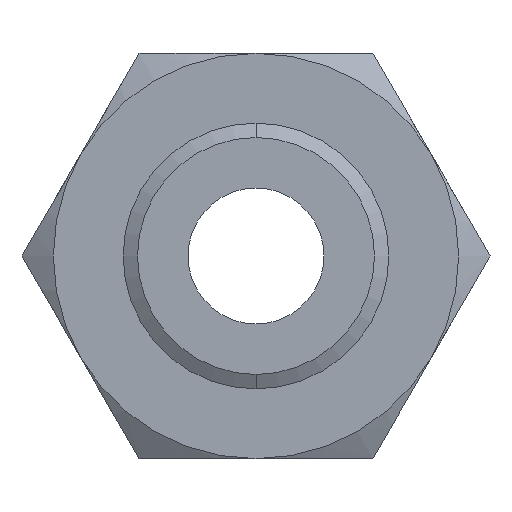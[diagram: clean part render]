
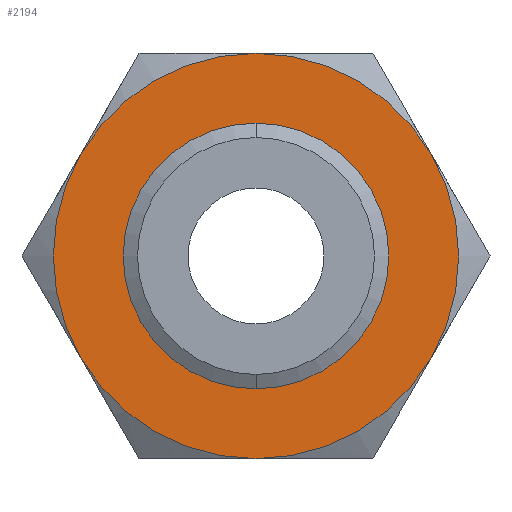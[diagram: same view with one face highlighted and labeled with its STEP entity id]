
A CAD part, front view. The second image highlights one B-rep face of the part: STEP entity #2194.
In plain terms, the highlighted planar face has unit normal (0, -1, 0).
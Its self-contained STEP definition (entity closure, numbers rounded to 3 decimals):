
#358 = AXIS2_PLACEMENT_3D ( 'NONE', #419, #418, #417 ) ;
#359 = CIRCLE ( 'NONE', #358, 77.5 ) ;
#365 = CARTESIAN_POINT ( 'NONE',  ( -67.117, 0., 38.75 ) ) ;
#366 = CARTESIAN_POINT ( 'NONE',  ( 67.117, 0., -38.75 ) ) ;
#373 = CARTESIAN_POINT ( 'NONE',  ( -67.117, 0., -38.75 ) ) ;
#402 = DIRECTION ( 'NONE',  ( 0., 0., 1. ) ) ;
#403 = DIRECTION ( 'NONE',  ( 0., 1., 0. ) ) ;
#404 = AXIS2_PLACEMENT_3D ( 'NONE', #411, #403, #402 ) ;
#405 = CIRCLE ( 'NONE', #404, 77.5 ) ;
#406 = DIRECTION ( 'NONE',  ( 0., 0., 1. ) ) ;
#407 = DIRECTION ( 'NONE',  ( 0., 1., 0. ) ) ;
#408 = CARTESIAN_POINT ( 'NONE',  ( 0., 0., 0. ) ) ;
#409 = AXIS2_PLACEMENT_3D ( 'NONE', #408, #407, #406 ) ;
#410 = CIRCLE ( 'NONE', #409, 77.5 ) ;
#411 = CARTESIAN_POINT ( 'NONE',  ( 0., 0., 0. ) ) ;
#412 = CARTESIAN_POINT ( 'NONE',  ( 0., 0., 77.5 ) ) ;
#416 = CARTESIAN_POINT ( 'NONE',  ( 67.117, 0., 38.75 ) ) ;
#417 = DIRECTION ( 'NONE',  ( 0., 0., 1. ) ) ;
#418 = DIRECTION ( 'NONE',  ( 0., 1., 0. ) ) ;
#419 = CARTESIAN_POINT ( 'NONE',  ( 0., 0., 0. ) ) ;
#427 = DIRECTION ( 'NONE',  ( 0., 0., 1. ) ) ;
#428 = DIRECTION ( 'NONE',  ( 0., 1., 0. ) ) ;
#429 = CARTESIAN_POINT ( 'NONE',  ( 0., 0., 0. ) ) ;
#430 = AXIS2_PLACEMENT_3D ( 'NONE', #429, #428, #427 ) ;
#431 = CIRCLE ( 'NONE', #430, 77.5 ) ;
#432 = DIRECTION ( 'NONE',  ( 0., 0., 1. ) ) ;
#433 = DIRECTION ( 'NONE',  ( 0., 1., 0. ) ) ;
#434 = CARTESIAN_POINT ( 'NONE',  ( 0., 0., 0. ) ) ;
#435 = AXIS2_PLACEMENT_3D ( 'NONE', #434, #433, #432 ) ;
#436 = CIRCLE ( 'NONE', #435, 77.5 ) ;
#437 = DIRECTION ( 'NONE',  ( 0., 0., 1. ) ) ;
#438 = DIRECTION ( 'NONE',  ( 0., 1., 0. ) ) ;
#439 = CARTESIAN_POINT ( 'NONE',  ( 0., 0., 0. ) ) ;
#440 = AXIS2_PLACEMENT_3D ( 'NONE', #439, #438, #437 ) ;
#441 = CIRCLE ( 'NONE', #440, 77.5 ) ;
#442 = CARTESIAN_POINT ( 'NONE',  ( 0., 0., -77.5 ) ) ;
#444 = DIRECTION ( 'NONE',  ( 0., 0., 1. ) ) ;
#445 = DIRECTION ( 'NONE',  ( 0., 1., 0. ) ) ;
#446 = CARTESIAN_POINT ( 'NONE',  ( 44.745, 0., -77.5 ) ) ;
#447 = AXIS2_PLACEMENT_3D ( 'NONE', #446, #445, #444 ) ;
#448 = PLANE ( 'NONE',  #447 ) ;
#449 = FACE_BOUND ( 'NONE', #2185, .T. ) ;
#450 = FACE_OUTER_BOUND ( 'NONE', #2180, .T. ) ;
#511 = DIRECTION ( 'NONE',  ( 0., 0., -1. ) ) ;
#512 = DIRECTION ( 'NONE',  ( 0., -1., 0. ) ) ;
#513 = CARTESIAN_POINT ( 'NONE',  ( 0., 0., 0. ) ) ;
#514 = AXIS2_PLACEMENT_3D ( 'NONE', #513, #512, #511 ) ;
#515 = CIRCLE ( 'NONE', #514, 45.301 ) ;
#1836 = CARTESIAN_POINT ( 'NONE',  ( 0., 0., 45.301 ) ) ;
#1857 = CARTESIAN_POINT ( 'NONE',  ( 0., 0., -45.301 ) ) ;
#1871 = DIRECTION ( 'NONE',  ( 0., 0., -1. ) ) ;
#1872 = DIRECTION ( 'NONE',  ( 0., -1., 0. ) ) ;
#1873 = CARTESIAN_POINT ( 'NONE',  ( 0., 0., 0. ) ) ;
#1874 = AXIS2_PLACEMENT_3D ( 'NONE', #1873, #1872, #1871 ) ;
#1875 = CIRCLE ( 'NONE', #1874, 45.301 ) ;
#2157 = VERTEX_POINT ( 'NONE', #373 ) ;
#2159 = ORIENTED_EDGE ( 'NONE', *, *, #2197, .F. ) ;
#2161 = VERTEX_POINT ( 'NONE', #366 ) ;
#2162 = ORIENTED_EDGE ( 'NONE', *, *, #2184, .F. ) ;
#2163 = VERTEX_POINT ( 'NONE', #365 ) ;
#2168 = ORIENTED_EDGE ( 'NONE', *, *, #2169, .F. ) ;
#2169 = EDGE_CURVE ( 'NONE', #2163, #2179, #359, .T. ) ;
#2170 = VERTEX_POINT ( 'NONE', #416 ) ;
#2178 = ORIENTED_EDGE ( 'NONE', *, *, #2200, .F. ) ;
#2179 = VERTEX_POINT ( 'NONE', #412 ) ;
#2180 = EDGE_LOOP ( 'NONE', ( #2182, #2168, #2178, #2159, #2198, #2162 ) ) ;
#2181 = EDGE_CURVE ( 'NONE', #2179, #2170, #410, .T. ) ;
#2182 = ORIENTED_EDGE ( 'NONE', *, *, #2181, .F. ) ;
#2184 = EDGE_CURVE ( 'NONE', #2170, #2161, #405, .T. ) ;
#2185 = EDGE_LOOP ( 'NONE', ( #2186, #2224 ) ) ;
#2186 = ORIENTED_EDGE ( 'NONE', *, *, #3173, .F. ) ;
#2194 = ADVANCED_FACE ( 'NONE', ( #450, #449 ), #448, .F. ) ;
#2196 = VERTEX_POINT ( 'NONE', #442 ) ;
#2197 = EDGE_CURVE ( 'NONE', #2196, #2157, #441, .T. ) ;
#2198 = ORIENTED_EDGE ( 'NONE', *, *, #2199, .F. ) ;
#2199 = EDGE_CURVE ( 'NONE', #2161, #2196, #436, .T. ) ;
#2200 = EDGE_CURVE ( 'NONE', #2157, #2163, #431, .T. ) ;
#2224 = ORIENTED_EDGE ( 'NONE', *, *, #2225, .F. ) ;
#2225 = EDGE_CURVE ( 'NONE', #3156, #3146, #515, .T. ) ;
#3146 = VERTEX_POINT ( 'NONE', #1857 ) ;
#3156 = VERTEX_POINT ( 'NONE', #1836 ) ;
#3173 = EDGE_CURVE ( 'NONE', #3146, #3156, #1875, .T. ) ;
